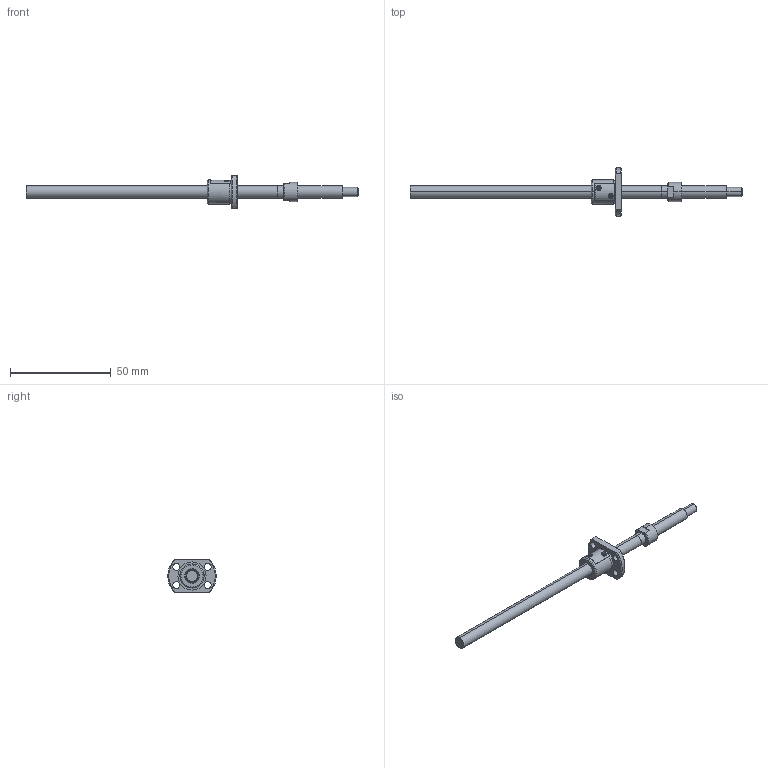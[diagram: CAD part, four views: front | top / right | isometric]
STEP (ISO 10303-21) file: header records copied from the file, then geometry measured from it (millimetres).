
FILE_DESCRIPTION (( 'STEP AP214' ), '1' );
FILE_NAME ('BS0601P-3D.STEP', '2014-03-05T15:14:57', ( '' ), ( '' ), 'SwSTEP 2.0', 'SolidWorks 2012', '' );
FILE_SCHEMA (( 'AUTOMOTIVE_DESIGN' ));
Length unit declared in the file: millimetre
Products named in the file (3): BS0601Pナット; BS0601PŽ²; BS0601P-3D
Assembly tree (2 placements, depth 2):
  BS0601P-3D
    BS0601PŽ²
    BS0601Pナット
Bounding box: 165 x 23.92 x 16 mm (x, y, z)
Volume: 6608 mm3; surface area: 5001.1 mm2
Topology: 2 solids, 2 shells, 130 faces, 316 edges, 202 vertices
Faces by surface type: plane 55, cylinder 51, cone 24
Entity records: 4094 total; most frequent: CARTESIAN_POINT 853, DIRECTION 682, ORIENTED_EDGE 632, EDGE_CURVE 316, AXIS2_PLACEMENT_3D 255, VERTEX_POINT 202, VECTOR 172, LINE 172
